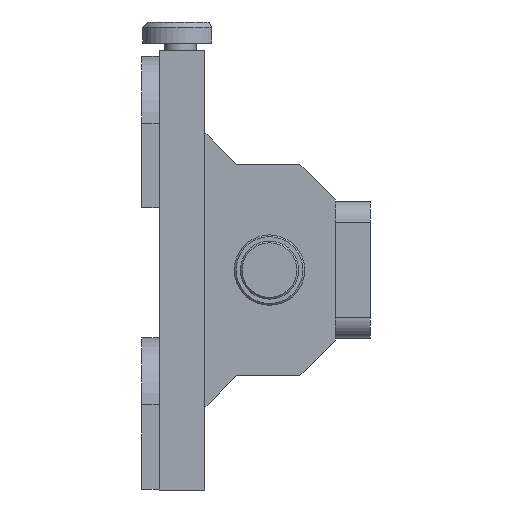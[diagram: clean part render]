
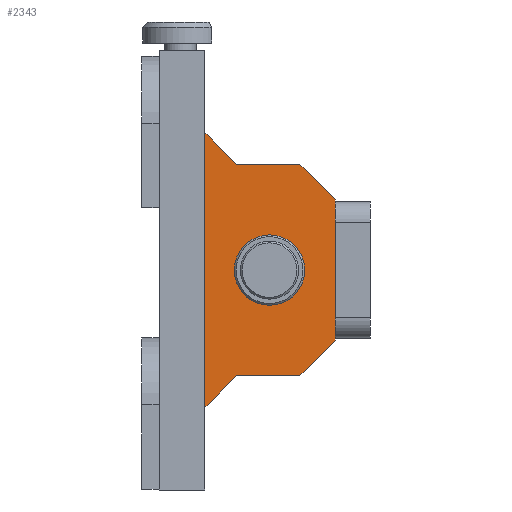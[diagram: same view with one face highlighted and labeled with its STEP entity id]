
A CAD part, left-side view. The second image highlights one B-rep face of the part: STEP entity #2343.
In plain terms, the highlighted planar face has unit normal (-1, 0, 0).
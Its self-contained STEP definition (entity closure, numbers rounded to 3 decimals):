
#70 = VERTEX_POINT ( 'NONE', #924 ) ;
#124 = LINE ( 'NONE', #811, #1998 ) ;
#134 = VERTEX_POINT ( 'NONE', #1084 ) ;
#152 = CARTESIAN_POINT ( 'NONE',  ( -13.5, 57., 39. ) ) ;
#162 = DIRECTION ( 'NONE',  ( 0., 0., -1. ) ) ;
#188 = EDGE_CURVE ( 'NONE', #70, #1263, #1510, .T. ) ;
#222 = DIRECTION ( 'NONE',  ( 0., 0., -1. ) ) ;
#267 = CARTESIAN_POINT ( 'NONE',  ( -13.5, 38.66, -10. ) ) ;
#295 = VERTEX_POINT ( 'NONE', #267 ) ;
#297 = VECTOR ( 'NONE', #332, 1000. ) ;
#332 = DIRECTION ( 'NONE',  ( 0., 0.707, -0.707 ) ) ;
#434 = ORIENTED_EDGE ( 'NONE', *, *, #1461, .F. ) ;
#437 = CARTESIAN_POINT ( 'NONE',  ( -13.5, 30., -30. ) ) ;
#446 = VECTOR ( 'NONE', #2340, 1000. ) ;
#479 = DIRECTION ( 'NONE',  ( 0., -0.707, -0.707 ) ) ;
#480 = CARTESIAN_POINT ( 'NONE',  ( -13.5, 57., 39. ) ) ;
#507 = DIRECTION ( 'NONE',  ( 0., 0., -1. ) ) ;
#529 = VERTEX_POINT ( 'NONE', #480 ) ;
#543 = CARTESIAN_POINT ( 'NONE',  ( -13.5, 20., -20. ) ) ;
#563 = LINE ( 'NONE', #1225, #1047 ) ;
#590 = VERTEX_POINT ( 'NONE', #1588 ) ;
#721 = VERTEX_POINT ( 'NONE', #884 ) ;
#723 = CARTESIAN_POINT ( 'NONE',  ( -13.5, 20., 19.5 ) ) ;
#729 = LINE ( 'NONE', #1619, #2484 ) ;
#754 = EDGE_LOOP ( 'NONE', ( #2743 ) ) ;
#810 = EDGE_CURVE ( 'NONE', #2905, #1045, #2566, .T. ) ;
#811 = CARTESIAN_POINT ( 'NONE',  ( -13.5, 48., -30. ) ) ;
#850 = EDGE_CURVE ( 'NONE', #2009, #1524, #124, .T. ) ;
#857 = DIRECTION ( 'NONE',  ( 0., -0.707, -0.707 ) ) ;
#884 = CARTESIAN_POINT ( 'NONE',  ( -13.5, 20., -20. ) ) ;
#914 = DIRECTION ( 'NONE',  ( 0., 0.707, -0.707 ) ) ;
#917 = ORIENTED_EDGE ( 'NONE', *, *, #2262, .F. ) ;
#919 = DIRECTION ( 'NONE',  ( 0., 0., -1. ) ) ;
#924 = CARTESIAN_POINT ( 'NONE',  ( -13.5, 30., 30. ) ) ;
#933 = EDGE_CURVE ( 'NONE', #529, #590, #2398, .T. ) ;
#993 = DIRECTION ( 'NONE',  ( 1., 0., 0. ) ) ;
#1045 = VERTEX_POINT ( 'NONE', #2234 ) ;
#1046 = ORIENTED_EDGE ( 'NONE', *, *, #933, .F. ) ;
#1047 = VECTOR ( 'NONE', #162, 1000. ) ;
#1084 = CARTESIAN_POINT ( 'NONE',  ( -13.5, 57., -39. ) ) ;
#1107 = VECTOR ( 'NONE', #479, 1000. ) ;
#1117 = VECTOR ( 'NONE', #919, 1000. ) ;
#1225 = CARTESIAN_POINT ( 'NONE',  ( -13.5, 20., -20. ) ) ;
#1232 = CARTESIAN_POINT ( 'NONE',  ( -13.5, 48., -30. ) ) ;
#1263 = VERTEX_POINT ( 'NONE', #1555 ) ;
#1270 = EDGE_CURVE ( 'NONE', #590, #70, #2671, .T. ) ;
#1362 = DIRECTION ( 'NONE',  ( 0., 0., 1. ) ) ;
#1381 = EDGE_CURVE ( 'NONE', #1524, #134, #729, .T. ) ;
#1406 = EDGE_CURVE ( 'NONE', #134, #529, #2036, .T. ) ;
#1408 = FACE_BOUND ( 'NONE', #754, .T. ) ;
#1461 = EDGE_CURVE ( 'NONE', #721, #2009, #2125, .T. ) ;
#1510 = LINE ( 'NONE', #2411, #1107 ) ;
#1524 = VERTEX_POINT ( 'NONE', #1232 ) ;
#1555 = CARTESIAN_POINT ( 'NONE',  ( -13.5, 20., 20. ) ) ;
#1579 = VECTOR ( 'NONE', #1778, 1000. ) ;
#1588 = CARTESIAN_POINT ( 'NONE',  ( -13.5, 48., 30. ) ) ;
#1607 = CARTESIAN_POINT ( 'NONE',  ( -13.5, 57., 62.5 ) ) ;
#1614 = ORIENTED_EDGE ( 'NONE', *, *, #1406, .F. ) ;
#1619 = CARTESIAN_POINT ( 'NONE',  ( -13.5, 48., -30. ) ) ;
#1659 = VECTOR ( 'NONE', #857, 1000. ) ;
#1722 = ORIENTED_EDGE ( 'NONE', *, *, #1270, .F. ) ;
#1746 = DIRECTION ( 'NONE',  ( 0., 1., 0. ) ) ;
#1778 = DIRECTION ( 'NONE',  ( 0., -1., 0. ) ) ;
#1817 = ORIENTED_EDGE ( 'NONE', *, *, #850, .F. ) ;
#1949 = AXIS2_PLACEMENT_3D ( 'NONE', #2900, #2934, #222 ) ;
#1955 = EDGE_CURVE ( 'NONE', #295, #295, #2291, .T. ) ;
#1998 = VECTOR ( 'NONE', #1746, 1000. ) ;
#2009 = VERTEX_POINT ( 'NONE', #437 ) ;
#2026 = CARTESIAN_POINT ( 'NONE',  ( -13.5, 20., -20. ) ) ;
#2036 = LINE ( 'NONE', #2719, #2208 ) ;
#2073 = PLANE ( 'NONE',  #2476 ) ;
#2113 = CARTESIAN_POINT ( 'NONE',  ( -13.5, 30., -30. ) ) ;
#2125 = LINE ( 'NONE', #2113, #297 ) ;
#2142 = ORIENTED_EDGE ( 'NONE', *, *, #810, .F. ) ;
#2199 = CARTESIAN_POINT ( 'NONE',  ( -13.5, 30., 30. ) ) ;
#2208 = VECTOR ( 'NONE', #1362, 1000. ) ;
#2234 = CARTESIAN_POINT ( 'NONE',  ( -13.5, 20., -19.5 ) ) ;
#2262 = EDGE_CURVE ( 'NONE', #1045, #721, #2897, .T. ) ;
#2291 = CIRCLE ( 'NONE', #1949, 10. ) ;
#2305 = ORIENTED_EDGE ( 'NONE', *, *, #1381, .F. ) ;
#2322 = FACE_OUTER_BOUND ( 'NONE', #2326, .T. ) ;
#2326 = EDGE_LOOP ( 'NONE', ( #1614, #2305, #1817, #434, #917, #2142, #2652, #2361, #1722, #1046 ) ) ;
#2340 = DIRECTION ( 'NONE',  ( 0., 0., -1. ) ) ;
#2343 = ADVANCED_FACE ( 'NONE', ( #1408, #2322 ), #2073, .F. ) ;
#2361 = ORIENTED_EDGE ( 'NONE', *, *, #188, .F. ) ;
#2398 = LINE ( 'NONE', #152, #1659 ) ;
#2411 = CARTESIAN_POINT ( 'NONE',  ( -13.5, 20., 20. ) ) ;
#2476 = AXIS2_PLACEMENT_3D ( 'NONE', #1607, #993, #507 ) ;
#2484 = VECTOR ( 'NONE', #914, 1000. ) ;
#2501 = EDGE_CURVE ( 'NONE', #1263, #2905, #563, .T. ) ;
#2566 = LINE ( 'NONE', #543, #446 ) ;
#2652 = ORIENTED_EDGE ( 'NONE', *, *, #2501, .F. ) ;
#2671 = LINE ( 'NONE', #2199, #1579 ) ;
#2719 = CARTESIAN_POINT ( 'NONE',  ( -13.5, 57., 62.5 ) ) ;
#2743 = ORIENTED_EDGE ( 'NONE', *, *, #1955, .F. ) ;
#2897 = LINE ( 'NONE', #2026, #1117 ) ;
#2900 = CARTESIAN_POINT ( 'NONE',  ( -13.5, 38.66, 0. ) ) ;
#2905 = VERTEX_POINT ( 'NONE', #723 ) ;
#2934 = DIRECTION ( 'NONE',  ( -1., 0., 0. ) ) ;
